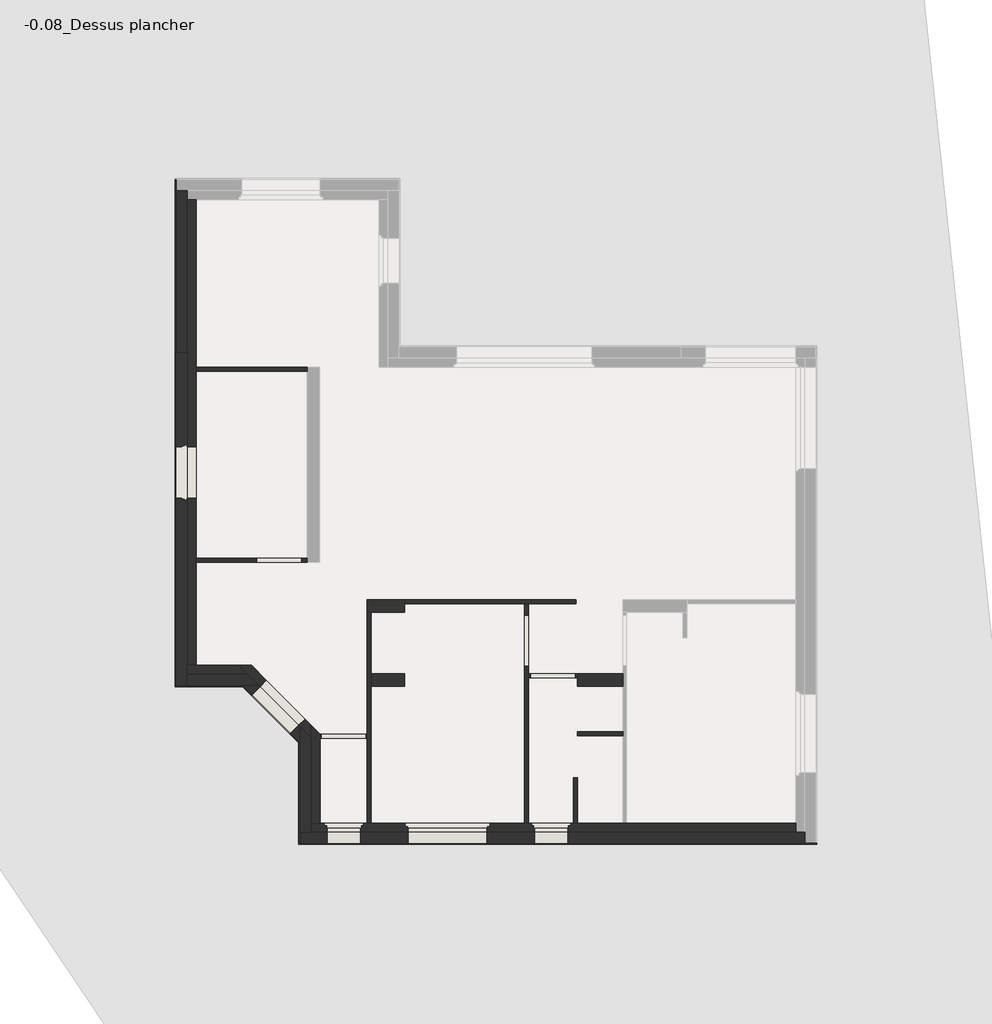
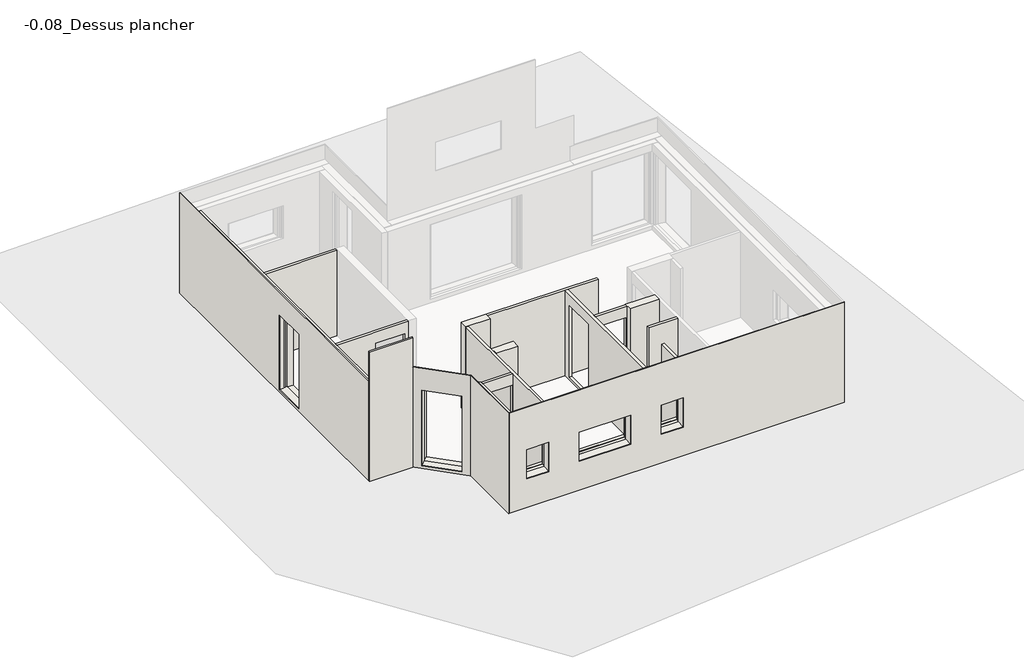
# One storey, part 1 of 2: 28 walls.
"""IFC4 building model written with IfcOpenShell, lengths in millimetres."""

from ifc_helpers import new_model, si_unit, frame, origin, place, context, project, spatial, polyline, outline, extrude, faceted_brep, element, save

model = new_model("IFC4")

# Units and contexts
model_context = context("Model", 3, world=origin())
ifc_project = project(units=[si_unit("LENGTHUNIT", "METRE", prefix="MILLI")], contexts=[model_context])

# Site, building, storey
site = spatial("IfcSite", under=ifc_project)
building = spatial("IfcBuilding", under=site)
storey = spatial("IfcBuildingStorey", under=building, Name="-0.08_Dessus plancher", Elevation=-80.0)

# Walls
placement = place(None, origin())
element("IfcWall", 1, ObjectType="Mur refend 22", at=placement, inside=storey, context=model_context, shape_type="SweptSolid", body=[
    extrude(outline(polyline([(-14491.7726031, 2729.9231713), (-13821.7726031, 2729.9231713), (-13821.7726031, 2509.9231713), (-14491.7726031, 2509.9231713), (-14491.7726031, 2729.9231713)])), frame((0.0, 0.0, -80.0), z_axis=(0.0, 0.0, 1.0), x_axis=(1.0, 0.0, 0.0)), (0.0, 0.0, 1.0), 2490.0),
])
element("IfcWall", 2, ObjectType="Mur refend 22", at=placement, inside=storey, context=model_context, shape_type="SweptSolid", body=[
    extrude(outline(polyline([(-13821.7726031, 1199.9231713), (-14421.7726031, 1199.9231713), (-14421.7726031, 1419.9231713), (-13821.7726031, 1419.9231713), (-13821.7726031, 1199.9231713)])), frame((0.0, 0.0, -80.0), z_axis=(0.0, 0.0, 1.0), x_axis=(1.0, 0.0, 0.0)), (0.0, 0.0, 1.0), 2490.0),
])
element("IfcWall", 3, ObjectType="Mur refend 22", at=placement, inside=storey, context=model_context, shape_type="SweptSolid", body=[
    extrude(outline(polyline([(-9951.7726031, 1199.9231713), (-10751.7726031, 1199.9231713), (-10751.7726031, 1419.9231713), (-9951.7726031, 1419.9231713), (-9951.7726031, 1199.9231713)])), frame((0.0, 0.0, -80.0), z_axis=(0.0, 0.0, 1.0), x_axis=(1.0, 0.0, 0.0)), (0.0, 0.0, 1.0), 2490.0),
])
element("IfcWall", 4, ObjectType="Doublage 16", at=placement, inside=storey, context=model_context, shape_type="Brep", body=[
    faceted_brep([(-6881.7726031, -1230.0768287, -80.0), (-9881.7726031, -1230.0768287, -80.0), (-9951.7726031, -1230.0768287, -80.0), (-10751.7726031, -1230.0768287, -80.0), (-10821.7726031, -1230.0768287, -80.0), (-11621.7726031, -1230.0768287, -80.0), (-11691.7726031, -1230.0768287, -80.0), (-14421.7726031, -1230.0768287, -80.0), (-14491.7726031, -1230.0768287, -80.0), (-15321.7726031, -1230.0768287, -80.0), (-15481.7726031, -1230.0768287, -80.0), (-15481.7726031, -1230.0768287, 2400.0), (-15321.7726031, -1230.0768287, 2400.0), (-14491.7726031, -1230.0768287, 2400.0), (-14421.7726031, -1230.0768287, 2400.0), (-11691.7726031, -1230.0768287, 2400.0), (-11621.7726031, -1230.0768287, 2400.0), (-10821.7726031, -1230.0768287, 2400.0), (-10751.7726031, -1230.0768287, 2400.0), (-9951.7726031, -1230.0768287, 2400.0), (-9881.7726031, -1230.0768287, 2400.0), (-6881.7726031, -1230.0768287, 2400.0), (-11571.7726031, -1230.0768287, 800.0), (-10871.7726031, -1230.0768287, 800.0), (-10871.7726031, -1230.0768287, 1650.0), (-11571.7726031, -1230.0768287, 1650.0), (-15251.7726031, -1230.0768287, 800.0), (-14551.7726031, -1230.0768287, 800.0), (-14551.7726031, -1230.0768287, 1650.0), (-15251.7726031, -1230.0768287, 1650.0), (-13761.7726031, -1230.0768287, 800.0), (-12361.7726031, -1230.0768287, 800.0), (-12311.7726031, -1230.0768287, 800.0), (-12311.7726031, -1230.0768287, 1650.0), (-13811.7726031, -1230.0768287, 1650.0), (-13811.7726031, -1230.0768287, 800.0), (-15481.7726031, -1390.0768287, -80.0), (-6881.7726031, -1390.0768287, -80.0), (-6881.7726031, -1390.0768287, 2400.0), (-15481.7726031, -1390.0768287, 2400.0), (-10921.7726031, -1390.0768287, 1600.0), (-10921.7726031, -1390.0768287, 776.5916612), (-11521.7726031, -1390.0768287, 776.5916612), (-11521.7726031, -1390.0768287, 1600.0), (-14601.7726031, -1390.0768287, 1600.0), (-14601.7726031, -1390.0768287, 776.5916612), (-15201.7726031, -1390.0768287, 776.5916612), (-15201.7726031, -1390.0768287, 1600.0), (-12361.7726031, -1390.0768287, 1600.0), (-12361.7726031, -1390.0768287, 776.5916612), (-13761.7726031, -1390.0768287, 776.5916612), (-13761.7726031, -1390.0768287, 1600.0), (-10921.7726031, -1310.0768287, 800.0), (-10921.7726031, -1310.0768287, 785.0), (-10921.7726031, -1330.0768287, 1600.0), (-10921.7726031, -1330.0768287, 800.0), (-11521.7726031, -1310.0768287, 785.0), (-11521.7726031, -1310.0768287, 800.0), (-11521.7726031, -1330.0768287, 800.0), (-11521.7726031, -1330.0768287, 1600.0), (-10911.7726031, -1330.0768287, 800.0), (-10911.7726031, -1280.0768287, 800.0), (-10871.7726031, -1280.0768287, 800.0), (-11571.7726031, -1280.0768287, 800.0), (-11531.7726031, -1280.0768287, 800.0), (-11531.7726031, -1330.0768287, 800.0), (-10871.7726031, -1280.0768287, 1650.0), (-10911.7726031, -1280.0768287, 1610.0), (-11531.7726031, -1280.0768287, 1610.0), (-11571.7726031, -1280.0768287, 1650.0), (-10911.7726031, -1330.0768287, 1610.0), (-11531.7726031, -1330.0768287, 1610.0), (-14601.7726031, -1310.0768287, 800.0), (-14601.7726031, -1310.0768287, 785.0), (-14601.7726031, -1330.0768287, 1600.0), (-14601.7726031, -1330.0768287, 800.0), (-15201.7726031, -1310.0768287, 785.0), (-15201.7726031, -1310.0768287, 800.0), (-15201.7726031, -1330.0768287, 800.0), (-15201.7726031, -1330.0768287, 1600.0), (-14591.7726031, -1330.0768287, 800.0), (-14591.7726031, -1280.0768287, 800.0), (-14551.7726031, -1280.0768287, 800.0), (-15251.7726031, -1280.0768287, 800.0), (-15211.7726031, -1280.0768287, 800.0), (-15211.7726031, -1330.0768287, 800.0), (-14551.7726031, -1280.0768287, 1650.0), (-14591.7726031, -1280.0768287, 1610.0), (-15211.7726031, -1280.0768287, 1610.0), (-15251.7726031, -1280.0768287, 1650.0), (-14591.7726031, -1330.0768287, 1610.0), (-15211.7726031, -1330.0768287, 1610.0), (-12361.7726031, -1310.0768287, 800.0), (-12361.7726031, -1310.0768287, 785.0), (-12361.7726031, -1330.0768287, 1600.0), (-12361.7726031, -1330.0768287, 800.0), (-13761.7726031, -1310.0768287, 785.0), (-13761.7726031, -1310.0768287, 800.0), (-13761.7726031, -1330.0768287, 800.0), (-13761.7726031, -1330.0768287, 1600.0), (-12351.7726031, -1330.0768287, 800.0), (-12351.7726031, -1300.0768287, 800.0), (-12311.7726031, -1300.0768287, 800.0), (-13811.7726031, -1300.0768287, 800.0), (-13771.7726031, -1300.0768287, 800.0), (-13771.7726031, -1330.0768287, 800.0), (-12311.7726031, -1300.0768287, 1650.0), (-13811.7726031, -1300.0768287, 1650.0), (-12351.7726031, -1300.0768287, 1610.0), (-13771.7726031, -1300.0768287, 1610.0), (-12351.7726031, -1330.0768287, 1610.0), (-13771.7726031, -1330.0768287, 1610.0)], [[[0, 1, 2, 3, 4, 5, 6, 7, 8, 9, 10, 11, 12, 13, 14, 15, 16, 17, 18, 19, 20, 21], [22, 23, 24, 25], [26, 27, 28, 29], [30, 31, 32, 33, 34, 35]], [[36, 37, 38, 39], [40, 41, 42, 43], [44, 45, 46, 47], [48, 49, 50, 51]], [[10, 9, 8, 7, 6, 5, 4, 3, 2, 1, 0, 37, 36]], [[21, 20, 19, 18, 17, 16, 15, 14, 13, 12, 11, 39, 38]], [[0, 21, 38, 37]], [[11, 10, 36, 39]], [[52, 53, 41, 40, 54, 55]], [[56, 57, 58, 59, 43, 42]], [[53, 56, 42, 41]], [[53, 52, 57, 56]], [[40, 43, 59, 54]], [[57, 52, 55, 60, 61, 62, 23, 22, 63, 64, 65, 58]], [[23, 62, 66, 24]], [[62, 61, 67, 68, 64, 63, 69, 66]], [[61, 60, 70, 67]], [[60, 55, 54, 59, 58, 65, 71, 70]], [[24, 66, 69, 25]], [[68, 67, 70, 71]], [[69, 63, 22, 25]], [[64, 68, 71, 65]], [[72, 73, 45, 44, 74, 75]], [[76, 77, 78, 79, 47, 46]], [[73, 76, 46, 45]], [[73, 72, 77, 76]], [[44, 47, 79, 74]], [[77, 72, 75, 80, 81, 82, 27, 26, 83, 84, 85, 78]], [[27, 82, 86, 28]], [[82, 81, 87, 88, 84, 83, 89, 86]], [[81, 80, 90, 87]], [[80, 75, 74, 79, 78, 85, 91, 90]], [[28, 86, 89, 29]], [[88, 87, 90, 91]], [[89, 83, 26, 29]], [[84, 88, 91, 85]], [[92, 93, 49, 48, 94, 95]], [[96, 97, 98, 99, 51, 50]], [[92, 95, 100, 101, 102, 32, 31, 30, 35, 103, 104, 105, 98, 97]], [[99, 94, 48, 51]], [[93, 96, 50, 49]], [[93, 92, 97, 96]], [[32, 102, 106, 33]], [[104, 103, 107, 106, 102, 101, 108, 109]], [[101, 100, 110, 108]], [[95, 94, 99, 98, 105, 111, 110, 100]], [[33, 106, 107, 34]], [[109, 108, 110, 111]], [[103, 35, 34, 107]], [[105, 104, 109, 111]]]),
])
element("IfcWall", 5, ObjectType="Doublage 16", at=placement, inside=storey, context=model_context, shape_type="Brep", body=[
    faceted_brep([(-15321.7726031, -1230.0768287, -80.0), (-15321.7726031, 277.324325, -80.0), (-15321.7726031, 347.324325, -80.0), (-15321.7726031, 347.324325, 2400.0), (-15321.7726031, 277.324325, 2400.0), (-15321.7726031, -1230.0768287, 2400.0), (-15481.7726031, -1230.0768287, -80.0), (-15481.7726031, -1230.0768287, 2400.0), (-15481.7726031, 281.050155, 2400.0), (-15481.7726031, 507.324325, 2400.0), (-15481.7726031, 507.324325, -80.0), (-15481.7726031, 281.050155, -80.0)], [[[0, 1, 2, 3, 4, 5]], [[6, 7, 8, 9, 10, 11]], [[2, 1, 0, 6, 11, 10]], [[5, 4, 3, 9, 8, 7]], [[0, 5, 7, 6]], [[3, 2, 10, 9]]]),
])
element("IfcWall", 6, ObjectType="Doublage 16", at=placement, inside=storey, context=model_context, shape_type="Brep", body=[
    faceted_brep([(-15481.7726031, 507.324325, -80.0), (-16544.3714494, 1569.9231713, -80.0), (-16544.3714494, 1569.9231713, 2400.0), (-15481.7726031, 507.324325, 2400.0), (-16279.7413356, 1305.2930575, 2188.1), (-16279.7413356, 1305.2930575, 0.0), (-15589.4636958, 615.0154177, 0.0), (-15589.4636958, 615.0154177, 2188.1), (-16770.6456194, 1569.9231713, -80.0), (-16610.6456194, 1409.9231713, -80.0), (-16410.6456194, 1209.9231713, -80.0), (-15681.7726031, 481.050155, -80.0), (-15481.7726031, 281.050155, -80.0), (-15481.7726031, 281.050155, 2400.0), (-16610.6456194, 1409.9231713, 2400.0), (-16770.6456194, 1569.9231713, 2400.0), (-16392.8784206, 1192.1559725, 0.0), (-16392.8784206, 1192.1559725, 2188.1), (-15702.6007808, 501.8783327, 2188.1), (-15702.6007808, 501.8783327, 0.0)], [[[0, 1, 2, 3], [4, 5, 6, 7]], [[8, 9, 10, 11, 12, 13, 14, 15], [16, 17, 18, 19]], [[1, 0, 12, 11, 10, 9, 8]], [[3, 2, 15, 14, 13]], [[0, 3, 13, 12]], [[2, 1, 8, 15]], [[16, 5, 4, 17]], [[17, 4, 7, 18]], [[18, 7, 6, 19]], [[5, 16, 19, 6]]]),
])
element("IfcWall", 7, ObjectType="Doublage 16", at=placement, inside=storey, context=model_context, shape_type="Brep", body=[
    faceted_brep([(-16770.6456194, 1569.9231713, -80.0), (-17521.7726031, 1569.9231713, -80.0), (-17681.7726031, 1569.9231713, -80.0), (-17681.7726031, 1569.9231713, 2400.0), (-17521.7726031, 1569.9231713, 2400.0), (-16770.6456194, 1569.9231713, 2400.0), (-16610.6456194, 1409.9231713, -80.0), (-16610.6456194, 1409.9231713, 2400.0), (-17681.7726031, 1409.9231713, 2400.0), (-17681.7726031, 1409.9231713, -80.0)], [[[0, 1, 2, 3, 4, 5]], [[6, 7, 8, 9]], [[2, 1, 0, 6, 9]], [[5, 4, 3, 8, 7]], [[0, 5, 7, 6]], [[3, 2, 9, 8]]]),
])
element("IfcWall", 8, ObjectType="Doublage 16", at=placement, inside=storey, context=model_context, shape_type="Brep", body=[
    faceted_brep([(-17521.7726031, 1569.9231713, -80.0), (-17521.7726031, 3399.9231713, -80.0), (-17521.7726031, 3469.9231713, -80.0), (-17521.7726031, 6789.9231713, -80.0), (-17521.7726031, 6859.9231713, -80.0), (-17521.7726031, 9829.9231713, -80.0), (-17521.7726031, 9829.9231713, 2400.0), (-17521.7726031, 6859.9231713, 2400.0), (-17521.7726031, 6789.9231713, 2400.0), (-17521.7726031, 3469.9231713, 2400.0), (-17521.7726031, 3399.9231713, 2400.0), (-17521.7726031, 1569.9231713, 2400.0), (-17521.7726031, 4529.9231713, 2160.0), (-17521.7726031, 5449.9231713, 2160.0), (-17521.7726031, 5449.9231713, 0.0), (-17521.7726031, 4529.9231713, 0.0), (-17681.7726031, 9829.9231713, -80.0), (-17681.7726031, 7119.9231713, -80.0), (-17681.7726031, 1569.9231713, -80.0), (-17681.7726031, 1569.9231713, 2400.0), (-17681.7726031, 9829.9231713, 2400.0), (-17681.7726031, 5449.9231713, 2160.0), (-17681.7726031, 4529.9231713, 2160.0), (-17681.7726031, 4529.9231713, 0.0), (-17681.7726031, 5449.9231713, 0.0)], [[[0, 1, 2, 3, 4, 5, 6, 7, 8, 9, 10, 11], [12, 13, 14, 15]], [[16, 17, 18, 19, 20], [21, 22, 23, 24]], [[5, 4, 3, 2, 1, 0, 18, 17, 16]], [[11, 10, 9, 8, 7, 6, 20, 19]], [[0, 11, 19, 18]], [[12, 22, 21, 13]], [[23, 15, 14, 24]], [[22, 12, 15, 23]], [[13, 21, 24, 14]], [[6, 5, 16, 20]]]),
])
element("IfcWall", 9, ObjectType="Cloison 7cm", at=placement, inside=storey, context=model_context, shape_type="Brep", body=[
    faceted_brep([(-14421.7726031, -1230.0768287, -80.0), (-14421.7726031, 2509.9231713, -80.0), (-14421.7726031, 2509.9231713, 2400.0), (-14421.7726031, -1230.0768287, 2400.0), (-14491.7726031, -1230.0768287, -80.0), (-14491.7726031, -1230.0768287, 2400.0), (-14491.7726031, 277.324325, 2400.0), (-14491.7726031, 347.324325, 2400.0), (-14491.7726031, 2509.9231713, 2400.0), (-14491.7726031, 2509.9231713, -80.0), (-14491.7726031, 347.324325, -80.0), (-14491.7726031, 277.324325, -80.0)], [[[0, 1, 2, 3]], [[4, 5, 6, 7, 8, 9, 10, 11]], [[1, 0, 4, 11, 10, 9]], [[3, 2, 8, 7, 6, 5]], [[0, 3, 5, 4]], [[2, 1, 9, 8]]]),
])
element("IfcWall", 10, ObjectType="Cloison 7cm", at=placement, inside=storey, context=model_context, shape_type="Brep", body=[
    faceted_brep([(-11621.7726031, -1230.0768287, -80.0), (-11621.7726031, 1349.9231713, -80.0), (-11621.7726031, 1419.9231713, -80.0), (-11621.7726031, 2659.9231713, -80.0), (-11621.7726031, 2659.9231713, 2400.0), (-11621.7726031, 1419.9231713, 2400.0), (-11621.7726031, 1349.9231713, 2400.0), (-11621.7726031, -1230.0768287, 2400.0), (-11621.7726031, 2454.9231713, 0.0), (-11621.7726031, 1554.9231713, 0.0), (-11621.7726031, 1554.9231713, 2075.0), (-11621.7726031, 2454.9231713, 2075.0), (-11691.7726031, 2659.9231713, -80.0), (-11691.7726031, -1230.0768287, -80.0), (-11691.7726031, -1230.0768287, 2400.0), (-11691.7726031, 2659.9231713, 2400.0), (-11691.7726031, 2454.9231713, 0.0), (-11691.7726031, 2454.9231713, 2075.0), (-11691.7726031, 1554.9231713, 2075.0), (-11691.7726031, 1554.9231713, 0.0)], [[[0, 1, 2, 3, 4, 5, 6, 7], [8, 9, 10, 11]], [[12, 13, 14, 15], [16, 17, 18, 19]], [[3, 2, 1, 0, 13, 12]], [[7, 6, 5, 4, 15, 14]], [[0, 7, 14, 13]], [[4, 3, 12, 15]], [[17, 16, 8, 11]], [[18, 17, 11, 10]], [[19, 18, 10, 9]], [[16, 19, 9, 8]]]),
])
element("IfcWall", 11, ObjectType="Cloison 7cm", at=placement, inside=storey, context=model_context, shape_type="Brep", body=[
    faceted_brep([(-13821.7726031, 2659.9231713, -80.0), (-11691.7726031, 2659.9231713, -80.0), (-11621.7726031, 2659.9231713, -80.0), (-10781.7726031, 2659.9231713, -80.0), (-10781.7726031, 2659.9231713, 2400.0), (-11621.7726031, 2659.9231713, 2400.0), (-11691.7726031, 2659.9231713, 2400.0), (-13821.7726031, 2659.9231713, 2400.0), (-13821.7726031, 2729.9231713, -80.0), (-13821.7726031, 2729.9231713, 2400.0), (-10781.7726031, 2729.9231713, 2400.0), (-10781.7726031, 2729.9231713, -80.0)], [[[0, 1, 2, 3, 4, 5, 6, 7]], [[8, 9, 10, 11]], [[3, 2, 1, 0, 8, 11]], [[4, 3, 11, 10]], [[7, 6, 5, 4, 10, 9]], [[0, 7, 9, 8]]]),
])
element("IfcWall", 12, ObjectType="Cloison 7cm", at=placement, inside=storey, context=model_context, shape_type="SweptSolid", body=[
    extrude(outline(polyline([(-10751.7726031, -430.0768287), (-10751.7726031, -1230.0768287), (-10821.7726031, -1230.0768287), (-10821.7726031, -430.0768287), (-10751.7726031, -430.0768287)])), frame((0.0, 0.0, -80.0), z_axis=(0.0, 0.0, 1.0), x_axis=(1.0, 0.0, 0.0)), (0.0, 0.0, 1.0), 2480.0),
])
element("IfcWall", 13, ObjectType="Cloison 7cm", at=placement, inside=storey, context=model_context, shape_type="SweptSolid", body=[
    extrude(outline(polyline([(-9951.7726031, 319.9231713), (-10751.7726031, 319.9231713), (-10751.7726031, 389.9231713), (-9951.7726031, 389.9231713), (-9951.7726031, 319.9231713)])), frame((0.0, 0.0, -80.0), z_axis=(0.0, 0.0, 1.0), x_axis=(1.0, 0.0, 0.0)), (0.0, 0.0, 1.0), 2480.0),
])
element("IfcWall", 14, ObjectType="Cloison 7cm", at=placement, inside=storey, context=model_context, shape_type="SweptSolid", body=[
    extrude(outline(polyline([(-80.0, -10751.7726031), (2400.0, -10751.7726031), (2400.0, -11621.7726031), (-80.0, -11621.7726031), (-80.0, -10751.7726031)]), holes=[polyline([(0.0, -11586.7726031), (2075.0, -11586.7726031), (2075.0, -10786.7726031), (0.0, -10786.7726031), (0.0, -11586.7726031)])]), frame((0.0, 1349.9231713, 0.0), z_axis=(0.0, 1.0, 0.0), x_axis=(0.0, 0.0, 1.0)), (0.0, 0.0, 1.0), 70.0),
])
element("IfcWall", 15, ObjectType="Cloison 7cm", at=placement, inside=storey, context=model_context, shape_type="SweptSolid", body=[
    extrude(outline(polyline([(-80.0, -17521.7726031), (-80.0, -15551.7726031), (2400.0, -15551.7726031), (2400.0, -17521.7726031), (-80.0, -17521.7726031)]), holes=[polyline([(2075.0, -16450.9045516), (2075.0, -15650.9045516), (0.0, -15650.9045516), (0.0, -16450.9045516), (2075.0, -16450.9045516)])]), frame((0.0, 3399.9231713, 0.0), z_axis=(0.0, 1.0, 0.0), x_axis=(0.0, 0.0, 1.0)), (0.0, 0.0, 1.0), 70.0),
])
element("IfcWall", 16, ObjectType="Cloison 7cm", at=placement, inside=storey, context=model_context, shape_type="SweptSolid", body=[
    extrude(outline(polyline([(-17521.7726031, 6859.9231713), (-15551.7726031, 6859.9231713), (-15551.7726031, 6789.9231713), (-17521.7726031, 6789.9231713), (-17521.7726031, 6859.9231713)])), frame((0.0, 0.0, -80.0), z_axis=(0.0, 0.0, 1.0), x_axis=(1.0, 0.0, 0.0)), (0.0, 0.0, 1.0), 2480.0),
])
element("IfcWall", 17, ObjectType="Cloison 7cm", at=placement, inside=storey, context=model_context, shape_type="SweptSolid", body=[
    extrude(outline(polyline([(-80.0, -14491.7726031), (2400.0, -14491.7726031), (2400.0, -15321.7726031), (-80.0, -15321.7726031), (-80.0, -14491.7726031)]), holes=[polyline([(0.0, -14506.7726031), (0.0, -15306.7726031), (2075.0, -15306.7726031), (2075.0, -14506.7726031), (0.0, -14506.7726031)])]), frame((0.0, 277.324325, 0.0), z_axis=(0.0, 1.0, 0.0), x_axis=(0.0, 0.0, 1.0)), (0.0, 0.0, 1.0), 70.0),
])
element("IfcWall", 18, ObjectType="Enduit 2", at=placement, inside=storey, context=model_context, shape_type="Brep", body=[
    faceted_brep([(-17901.7726031, 1189.9231713, -80.0), (-16673.4883319, 1189.9231713, -80.0), (-16673.4883319, 1189.9231713, 2820.0), (-16710.6456194, 1189.9231713, 2820.0), (-16710.6456194, 1189.9231713, 3670.5379336), (-17901.7726031, 1189.9231713, 3670.5379336), (-16693.4883319, 1209.9231713, -80.0), (-17681.7726031, 1209.9231713, -80.0), (-17881.7726031, 1209.9231713, -80.0), (-17901.7726031, 1209.9231713, -80.0), (-17901.7726031, 1209.9231713, 2820.0), (-17901.7726031, 1209.9231713, 3687.3199262), (-17881.7726031, 1209.9231713, 3687.3199262), (-16710.6456194, 1209.9231713, 3687.3199262), (-16710.6456194, 1209.9231713, 2820.0), (-16693.4883319, 1209.9231713, 2820.0)], [[[0, 1, 2, 3, 4, 5]], [[6, 7, 8, 9, 10, 11, 12, 13, 14, 15]], [[1, 0, 9, 8, 7, 6]], [[1, 6, 15, 2]], [[9, 0, 5, 11, 10]], [[11, 5, 4, 13, 12]], [[14, 3, 2, 15]], [[3, 14, 13, 4]]]),
])
element("IfcWall", 19, ObjectType="Enduit 2", at=placement, inside=storey, context=model_context, shape_type="Brep", body=[
    faceted_brep([(-16721.7726031, 1209.9231713, -80.0), (-15681.7726031, 169.9231713, -80.0), (-15681.7726031, 169.9231713, 2820.0), (-16721.7726031, 1209.9231713, 2820.0), (-16548.4419124, 1036.5924806, 0.0), (-16548.4419124, 1036.5924806, 2188.1), (-15858.1642727, 346.3148408, 2188.1), (-15858.1642727, 346.3148408, 0.0), (-15681.7726031, 198.2074425, -80.0), (-16693.4883319, 1209.9231713, -80.0), (-16693.4883319, 1209.9231713, 2410.0), (-16693.4883319, 1209.9231713, 2820.0), (-15681.7726031, 198.2074425, 2820.0), (-15681.7726031, 198.2074425, 2410.0), (-16534.2997768, 1050.7346162, 2188.1), (-16534.2997768, 1050.7346162, 0.0), (-15844.022137, 360.4569764, 0.0), (-15844.022137, 360.4569764, 2188.1)], [[[0, 1, 2, 3], [4, 5, 6, 7]], [[8, 9, 10, 11, 12, 13], [14, 15, 16, 17]], [[1, 0, 9, 8]], [[3, 2, 12, 11]], [[2, 1, 8, 13, 12]], [[3, 11, 10, 9, 0]], [[5, 4, 15, 14]], [[6, 5, 14, 17]], [[7, 6, 17, 16]], [[4, 7, 16, 15]]]),
])
element("IfcWall", 20, ObjectType="Enduit 2", at=placement, inside=storey, context=model_context, shape_type="Brep", body=[
    faceted_brep([(-15701.7726031, 218.2074425, -80.0), (-15701.7726031, -1610.0768287, -80.0), (-15701.7726031, -1610.0768287, 2820.0), (-15701.7726031, 218.2074425, 2820.0), (-15681.7726031, 198.2074425, -80.0), (-15681.7726031, 198.2074425, 2820.0), (-15681.7726031, -1590.0768287, 2820.0), (-15681.7726031, -1610.0768287, 2820.0), (-15681.7726031, -1610.0768287, -80.0), (-15681.7726031, -1590.0768287, -80.0), (-15681.7726031, -1390.0768287, -80.0)], [[[0, 1, 2, 3]], [[4, 5, 6, 7, 8, 9, 10]], [[1, 0, 4, 10, 9, 8]], [[3, 2, 7, 6, 5]], [[0, 3, 5, 4]], [[2, 1, 8, 7]]]),
])
element("IfcWall", 21, ObjectType="Enduit 2", at=placement, inside=storey, context=model_context, shape_type="Brep", body=[
    faceted_brep([(-15681.7726031, -1610.0768287, -80.0), (-6501.7726031, -1610.0768287, -80.0), (-6501.7726031, -1610.0768287, 2820.0), (-15681.7726031, -1610.0768287, 2820.0), (-10921.7726031, -1610.0768287, 1600.0), (-10921.7726031, -1610.0768287, 753.4687294), (-11521.7726031, -1610.0768287, 753.4687294), (-11521.7726031, -1610.0768287, 1600.0), (-14601.7726031, -1610.0768287, 1600.0), (-14601.7726031, -1610.0768287, 753.4687294), (-15201.7726031, -1610.0768287, 753.4687294), (-15201.7726031, -1610.0768287, 1600.0), (-12361.7726031, -1610.0768287, 1600.0), (-12361.7726031, -1610.0768287, 753.4687294), (-13761.7726031, -1610.0768287, 753.4687294), (-13761.7726031, -1610.0768287, 1600.0), (-6501.7726031, -1590.0768287, -80.0), (-6521.7726031, -1590.0768287, -80.0), (-6721.7726031, -1590.0768287, -80.0), (-15681.7726031, -1590.0768287, -80.0), (-15681.7726031, -1590.0768287, 2410.0), (-15681.7726031, -1590.0768287, 2820.0), (-6521.7726031, -1590.0768287, 2820.0), (-6501.7726031, -1590.0768287, 2820.0), (-10921.7726031, -1590.0768287, 755.5708141), (-10921.7726031, -1590.0768287, 1600.0), (-11521.7726031, -1590.0768287, 1600.0), (-11521.7726031, -1590.0768287, 755.5708141), (-14601.7726031, -1590.0768287, 755.5708141), (-14601.7726031, -1590.0768287, 1600.0), (-15201.7726031, -1590.0768287, 1600.0), (-15201.7726031, -1590.0768287, 755.5708141), (-12361.7726031, -1590.0768287, 755.5708141), (-12361.7726031, -1590.0768287, 1600.0), (-13761.7726031, -1590.0768287, 1600.0), (-13761.7726031, -1590.0768287, 755.5708141)], [[[0, 1, 2, 3], [4, 5, 6, 7], [8, 9, 10, 11], [12, 13, 14, 15]], [[16, 17, 18, 19, 20, 21, 22, 23], [24, 25, 26, 27], [28, 29, 30, 31], [32, 33, 34, 35]], [[1, 0, 19, 18, 17, 16]], [[3, 2, 23, 22, 21]], [[0, 3, 21, 20, 19]], [[2, 1, 16, 23]], [[24, 5, 4, 25]], [[6, 27, 26, 7]], [[25, 4, 7, 26]], [[5, 24, 27, 6]], [[28, 9, 8, 29]], [[10, 31, 30, 11]], [[29, 8, 11, 30]], [[9, 28, 31, 10]], [[32, 13, 12, 33]], [[14, 35, 34, 15]], [[33, 12, 15, 34]], [[13, 32, 35, 14]]]),
])
element("IfcWall", 22, ObjectType="Enduit 2", at=placement, inside=storey, context=model_context, shape_type="Brep", body=[
    faceted_brep([(-17901.7726031, 10189.9231713, -80.0), (-17901.7726031, 1209.9231713, -80.0), (-17901.7726031, 1209.9231713, 2820.0), (-17901.7726031, 7219.9231713, 2820.0), (-17901.7726031, 10189.9231713, 2820.0), (-17901.7726031, 5449.9231713, 2160.0), (-17901.7726031, 4529.9231713, 2160.0), (-17901.7726031, 4529.9231713, 0.0), (-17901.7726031, 5449.9231713, 0.0), (-17881.7726031, 1209.9231713, -80.0), (-17881.7726031, 7119.9231713, -80.0), (-17881.7726031, 9989.9231713, -80.0), (-17881.7726031, 10189.9231713, -80.0), (-17881.7726031, 10189.9231713, 2820.0), (-17881.7726031, 7219.9231713, 2820.0), (-17881.7726031, 1209.9231713, 2820.0), (-17881.7726031, 1209.9231713, 2410.0), (-17881.7726031, 4529.9231713, 2160.0), (-17881.7726031, 5449.9231713, 2160.0), (-17881.7726031, 5449.9231713, 0.0), (-17881.7726031, 4529.9231713, 0.0)], [[[0, 1, 2, 3, 4], [5, 6, 7, 8]], [[9, 10, 11, 12, 13, 14, 15, 16], [17, 18, 19, 20]], [[1, 0, 12, 11, 10, 9]], [[4, 3, 2, 15, 14, 13]], [[0, 4, 13, 12]], [[2, 1, 9, 16, 15]], [[5, 18, 17, 6]], [[7, 20, 19, 8]], [[6, 17, 20, 7]], [[18, 5, 8, 19]]]),
])
element("IfcWall", 23, ObjectType="Mur 20", at=placement, inside=storey, context=model_context, shape_type="Brep", body=[
    faceted_brep([(-6721.7726031, -1390.0768287, -80.0), (-6881.7726031, -1390.0768287, -80.0), (-15481.7726031, -1390.0768287, -80.0), (-15681.7726031, -1390.0768287, -80.0), (-15681.7726031, -1390.0768287, 2410.0), (-15481.7726031, -1390.0768287, 2410.0), (-6721.7726031, -1390.0768287, 2410.0), (-10921.7726031, -1390.0768287, 776.5916612), (-10921.7726031, -1390.0768287, 1600.0), (-11521.7726031, -1390.0768287, 1600.0), (-11521.7726031, -1390.0768287, 776.5916612), (-14601.7726031, -1390.0768287, 776.5916612), (-14601.7726031, -1390.0768287, 1600.0), (-15201.7726031, -1390.0768287, 1600.0), (-15201.7726031, -1390.0768287, 776.5916612), (-12361.7726031, -1390.0768287, 776.5916612), (-12361.7726031, -1390.0768287, 1600.0), (-13761.7726031, -1390.0768287, 1600.0), (-13761.7726031, -1390.0768287, 776.5916612), (-15681.7726031, -1590.0768287, -80.0), (-6721.7726031, -1590.0768287, -80.0), (-6721.7726031, -1590.0768287, 2410.0), (-15681.7726031, -1590.0768287, 2410.0), (-10921.7726031, -1590.0768287, 1600.0), (-10921.7726031, -1590.0768287, 755.5708141), (-11521.7726031, -1590.0768287, 755.5708141), (-11521.7726031, -1590.0768287, 1600.0), (-14601.7726031, -1590.0768287, 1600.0), (-14601.7726031, -1590.0768287, 755.5708141), (-15201.7726031, -1590.0768287, 755.5708141), (-15201.7726031, -1590.0768287, 1600.0), (-12361.7726031, -1590.0768287, 1600.0), (-12361.7726031, -1590.0768287, 755.5708141), (-13761.7726031, -1590.0768287, 755.5708141), (-13761.7726031, -1590.0768287, 1600.0)], [[[0, 1, 2, 3, 4, 5, 6], [7, 8, 9, 10], [11, 12, 13, 14], [15, 16, 17, 18]], [[19, 20, 21, 22], [23, 24, 25, 26], [27, 28, 29, 30], [31, 32, 33, 34]], [[3, 2, 1, 0, 20, 19]], [[0, 6, 21, 20]], [[4, 3, 19, 22]], [[7, 24, 23, 8]], [[25, 10, 9, 26]], [[8, 23, 26, 9]], [[24, 7, 10, 25]], [[11, 28, 27, 12]], [[29, 14, 13, 30]], [[12, 27, 30, 13]], [[28, 11, 14, 29]], [[15, 32, 31, 16]], [[33, 18, 17, 34]], [[16, 31, 34, 17]], [[32, 15, 18, 33]], [[6, 5, 4, 22, 21]]]),
])
element("IfcWall", 24, ObjectType="Mur 20", at=placement, inside=storey, context=model_context, shape_type="Brep", body=[
    faceted_brep([(-15481.7726031, -1390.0768287, -80.0), (-15481.7726031, -1230.0768287, -80.0), (-15481.7726031, 281.050155, -80.0), (-15481.7726031, 281.050155, 2410.0), (-15481.7726031, -1390.0768287, 2410.0), (-15681.7726031, -1390.0768287, -80.0), (-15681.7726031, -1390.0768287, 2410.0), (-15681.7726031, 198.2074425, 2410.0), (-15681.7726031, 481.050155, 2410.0), (-15681.7726031, 481.050155, -80.0), (-15681.7726031, 198.2074425, -80.0)], [[[0, 1, 2, 3, 4]], [[5, 6, 7, 8, 9, 10]], [[2, 1, 0, 5, 10, 9]], [[0, 4, 6, 5]], [[3, 2, 9, 8]], [[4, 3, 8, 7, 6]]]),
])
element("IfcWall", 25, ObjectType="Mur 20", at=placement, inside=storey, context=model_context, shape_type="Brep", body=[
    faceted_brep([(-17881.7726031, 9989.9231713, -80.0), (-17881.7726031, 7119.9231713, -80.0), (-17881.7726031, 7119.9231713, 2410.0), (-17881.7726031, 9989.9231713, 2410.0), (-17681.7726031, 9989.9231713, -80.0), (-17681.7726031, 9989.9231713, 2410.0), (-17681.7726031, 7119.9231713, 2410.0), (-17681.7726031, 7119.9231713, -80.0), (-17681.7726031, 9829.9231713, -80.0)], [[[0, 1, 2, 3]], [[4, 5, 6, 7, 8]], [[1, 0, 4, 8, 7]], [[2, 1, 7, 6]], [[0, 3, 5, 4]], [[3, 2, 6, 5]]]),
])
element("IfcWall", 26, ObjectType="Mur 20", at=placement, inside=storey, context=model_context, shape_type="Brep", body=[
    faceted_brep([(-17681.7726031, 1209.9231713, -80.0), (-16693.4883319, 1209.9231713, -80.0), (-16410.6456194, 1209.9231713, -80.0), (-16410.6456194, 1209.9231713, 2410.0), (-16693.4883319, 1209.9231713, 2410.0), (-17681.7726031, 1209.9231713, 2410.0), (-17681.7726031, 1409.9231713, -80.0), (-17681.7726031, 1409.9231713, 2400.0), (-17681.7726031, 1409.9231713, 2410.0), (-16610.6456194, 1409.9231713, 2410.0), (-16610.6456194, 1409.9231713, 2400.0), (-16610.6456194, 1409.9231713, -80.0)], [[[0, 1, 2, 3, 4, 5]], [[6, 7, 8, 9, 10, 11]], [[2, 1, 0, 6, 11]], [[0, 5, 8, 7, 6]], [[3, 2, 11, 10, 9]], [[5, 4, 3, 9, 8]]]),
])
element("IfcWall", 27, ObjectType="Mur 20", at=placement, inside=storey, context=model_context, shape_type="Brep", body=[
    faceted_brep([(-16693.4883319, 1209.9231713, -80.0), (-15681.7726031, 198.2074425, -80.0), (-15681.7726031, 198.2074425, 2410.0), (-16693.4883319, 1209.9231713, 2410.0), (-16534.2997768, 1050.7346162, 0.0), (-16534.2997768, 1050.7346162, 2188.1), (-15844.022137, 360.4569764, 2188.1), (-15844.022137, 360.4569764, 0.0), (-15681.7726031, 481.050155, -80.0), (-16410.6456194, 1209.9231713, -80.0), (-16410.6456194, 1209.9231713, 2400.0), (-16410.6456194, 1209.9231713, 2410.0), (-15681.7726031, 481.050155, 2410.0), (-15681.7726031, 481.050155, 2400.0), (-16392.8784206, 1192.1559725, 2188.1), (-16392.8784206, 1192.1559725, 0.0), (-15702.6007808, 501.8783327, 0.0), (-15702.6007808, 501.8783327, 2188.1)], [[[0, 1, 2, 3], [4, 5, 6, 7]], [[8, 9, 10, 11, 12, 13], [14, 15, 16, 17]], [[1, 0, 9, 8]], [[0, 3, 11, 10, 9]], [[2, 1, 8, 13, 12]], [[5, 4, 15, 14]], [[6, 5, 14, 17]], [[7, 6, 17, 16]], [[4, 7, 16, 15]], [[3, 2, 12, 11]]]),
])
element("IfcWall", 28, ObjectType="Mur 20", at=placement, inside=storey, context=model_context, shape_type="Brep", body=[
    faceted_brep([(-17881.7726031, 7119.9231713, -80.0), (-17881.7726031, 1209.9231713, -80.0), (-17881.7726031, 1209.9231713, 2410.0), (-17881.7726031, 7119.9231713, 2410.0), (-17881.7726031, 5449.9231713, 2160.0), (-17881.7726031, 4529.9231713, 2160.0), (-17881.7726031, 4529.9231713, 0.0), (-17881.7726031, 5449.9231713, 0.0), (-17681.7726031, 1209.9231713, -80.0), (-17681.7726031, 1409.9231713, -80.0), (-17681.7726031, 1569.9231713, -80.0), (-17681.7726031, 7119.9231713, -80.0), (-17681.7726031, 7119.9231713, 2410.0), (-17681.7726031, 1409.9231713, 2410.0), (-17681.7726031, 1209.9231713, 2410.0), (-17681.7726031, 4529.9231713, 0.0), (-17681.7726031, 4499.9231713, 0.0), (-17681.7726031, 4499.9231713, 2190.0), (-17681.7726031, 5479.9231713, 2190.0), (-17681.7726031, 5479.9231713, 0.0), (-17681.7726031, 5449.9231713, 0.0), (-17781.7726031, 5449.9231713, 2160.0), (-17781.7726031, 4529.9231713, 2160.0), (-17781.7726031, 4529.9231713, 0.0), (-17781.7726031, 4514.9231713, 0.0), (-17738.7726031, 4514.9231713, 0.0), (-17738.7726031, 4499.9231713, 0.0), (-17738.7726031, 5479.9231713, 0.0), (-17738.7726031, 5464.9231713, 0.0), (-17781.7726031, 5464.9231713, 0.0), (-17781.7726031, 5449.9231713, 0.0), (-17738.7726031, 4514.9231713, 2175.0), (-17738.7726031, 5464.9231713, 2175.0), (-17738.7726031, 5479.9231713, 2190.0), (-17738.7726031, 4499.9231713, 2190.0), (-17781.7726031, 5464.9231713, 2175.0), (-17781.7726031, 4514.9231713, 2175.0)], [[[0, 1, 2, 3], [4, 5, 6, 7]], [[8, 9, 10, 11, 12, 13, 14], [15, 16, 17, 18, 19, 20]], [[2, 1, 8, 14]], [[21, 22, 5, 4]], [[23, 24, 25, 26, 16, 15, 20, 19, 27, 28, 29, 30, 7, 6]], [[22, 23, 6, 5]], [[30, 21, 4, 7]], [[26, 25, 31, 32, 28, 27, 33, 34]], [[27, 19, 18, 33]], [[34, 33, 18, 17]], [[16, 26, 34, 17]], [[29, 28, 32, 35]], [[22, 21, 30, 29, 35, 36, 24, 23]], [[32, 31, 36, 35]], [[25, 24, 36, 31]], [[1, 0, 11, 10, 9, 8]], [[0, 3, 12, 11]], [[3, 2, 14, 13, 12]]]),
])

save(model, "model.ifc")
